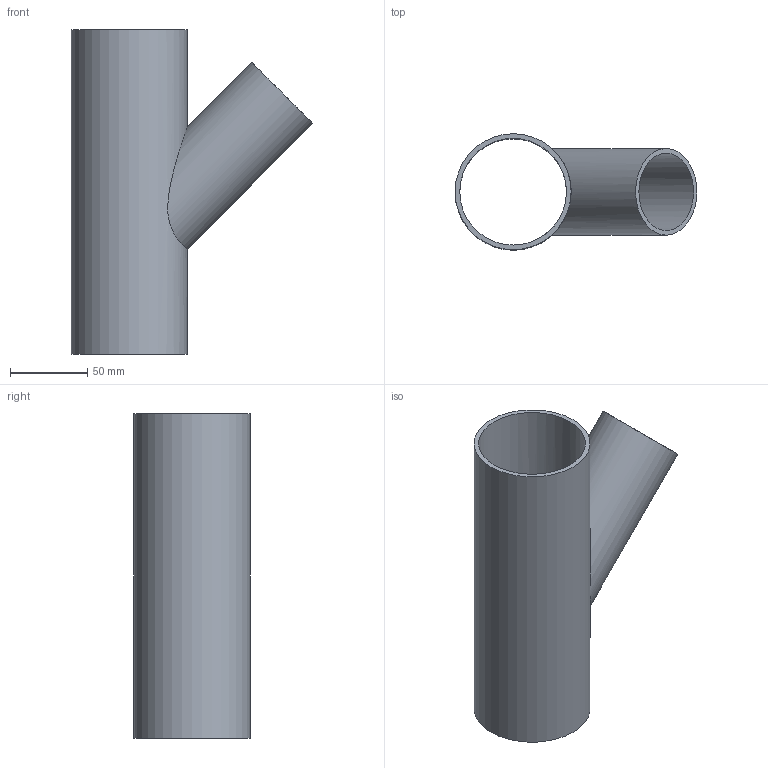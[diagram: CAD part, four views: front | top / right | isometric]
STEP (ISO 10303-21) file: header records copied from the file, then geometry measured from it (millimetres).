
FILE_DESCRIPTION(/* description */ (''),/* implementation_level */ '2;1');
FILE_NAME(/* name */ 'C:\Planerdaten\Export PLA\PRO_101557\stp\365115.stp',/* time_stamp */ '2021-09-30T15:04:55+02:00',/* author */ ('JANAN'),/* organization */ (''),/* preprocessor_version */ 'ST-DEVELOPER v16.13',/* originating_system */ 'Autodesk Inventor 2018',/* authorisation */ '');
FILE_SCHEMA (('AUTOMOTIVE_DESIGN { 1 0 10303 214 3 1 1 }'));
Length unit declared in the file: millimetre
Products named in the file (1): tmp4D6B.tmp
Bounding box: 156.29 x 75 x 210 mm (x, y, z)
Volume: 180551 mm3; surface area: 122286.8 mm2
Topology: 1 solids, 1 shells, 7 faces, 17 edges, 12 vertices
Faces by surface type: cylinder 4, plane 3
Full cylindrical faces by diameter (mm): 50 x1, 56 x1, 69 x1, 75 x1
Entity records: 336 total; most frequent: CARTESIAN_POINT 158, DIRECTION 28, EDGE_LOOP 16, ORIENTED_EDGE 16, AXIS2_PLACEMENT_3D 14, FACE_BOUND 9, VERTEX_POINT 8, EDGE_CURVE 8
